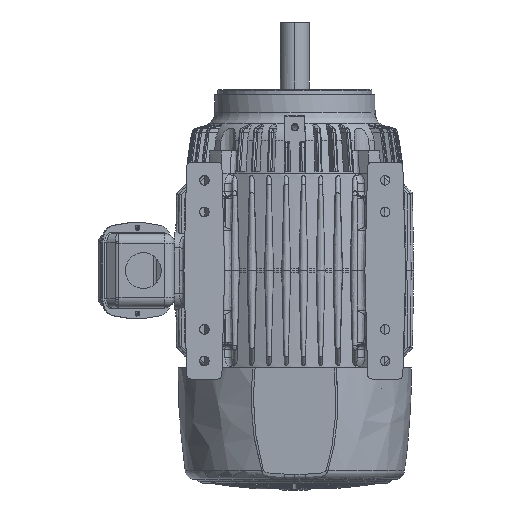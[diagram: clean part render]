
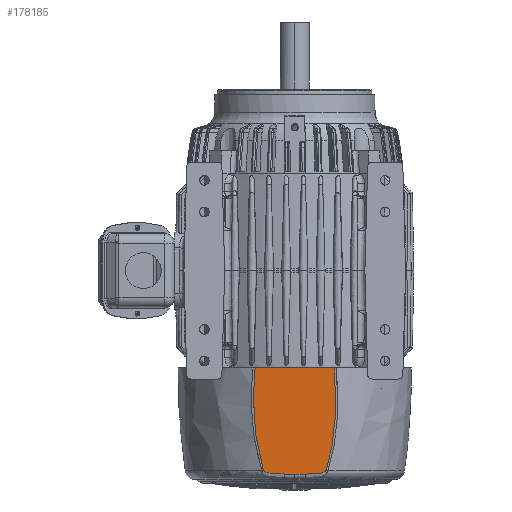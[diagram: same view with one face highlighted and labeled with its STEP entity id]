
A CAD part, front view. The second image highlights one B-rep face of the part: STEP entity #178185.
In plain terms, the highlighted planar face has unit normal (0, -0.999, -0.044).
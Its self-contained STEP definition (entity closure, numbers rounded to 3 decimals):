
#160816=DIRECTION('',(1.,0.,0.));
#160817=VECTOR('',#160816,4.389);
#160818=CARTESIAN_POINT('',(-2.194,-6.06,
0.));
#160819=LINE('',#160818,#160817);
#160824=CARTESIAN_POINT('',(-2.194,-6.06,
0.));
#160875=CARTESIAN_POINT('',(-1.735,-5.813,
-5.651));
#160876=CARTESIAN_POINT('',(-1.832,-5.827,
-5.346));
#160877=CARTESIAN_POINT('',(-1.993,-5.854,
-4.728));
#160878=CARTESIAN_POINT('',(-2.164,-5.897,
-3.741));
#160879=CARTESIAN_POINT('',(-2.256,-5.936,
-2.83));
#160880=CARTESIAN_POINT('',(-2.293,-5.972,
-2.009));
#160881=CARTESIAN_POINT('',(-2.289,-6.005,
-1.271));
#160882=CARTESIAN_POINT('',(-2.255,-6.034,
-0.601));
#160883=CARTESIAN_POINT('',(-2.217,-6.052,
-0.194));
#160884=CARTESIAN_POINT('',(-2.194,-6.06,
0.));
#160886=CARTESIAN_POINT('',(2.194,-6.06,0.));
#160887=CARTESIAN_POINT('',(2.225,-6.049,
-0.261));
#160888=CARTESIAN_POINT('',(2.271,-6.025,
-0.792));
#160889=CARTESIAN_POINT('',(2.298,-5.987,
-1.671));
#160890=CARTESIAN_POINT('',(2.277,-5.953,
-2.46));
#160891=CARTESIAN_POINT('',(2.225,-5.922,
-3.159));
#160892=CARTESIAN_POINT('',(2.152,-5.895,
-3.776));
#160893=CARTESIAN_POINT('',(2.064,-5.871,
-4.322));
#160894=CARTESIAN_POINT('',(1.964,-5.85,
-4.809));
#160895=CARTESIAN_POINT('',(1.856,-5.831,
-5.249));
#160896=CARTESIAN_POINT('',(1.776,-5.819,
-5.521));
#160897=CARTESIAN_POINT('',(1.735,-5.813,
-5.651));
#160899=CARTESIAN_POINT('',(1.735,-5.813,
-5.651));
#160900=CARTESIAN_POINT('',(1.733,-5.813,
-5.658));
#160901=CARTESIAN_POINT('',(1.727,-5.812,
-5.672));
#160902=CARTESIAN_POINT('',(1.713,-5.812,
-5.69));
#160903=CARTESIAN_POINT('',(1.694,-5.811,
-5.708));
#160904=CARTESIAN_POINT('',(1.67,-5.81,
-5.727));
#160905=CARTESIAN_POINT('',(1.639,-5.809,
-5.744));
#160906=CARTESIAN_POINT('',(1.602,-5.808,
-5.762));
#160907=CARTESIAN_POINT('',(1.56,-5.808,
-5.778));
#160908=CARTESIAN_POINT('',(1.511,-5.807,
-5.793));
#160909=CARTESIAN_POINT('',(1.457,-5.806,
-5.807));
#160910=CARTESIAN_POINT('',(1.395,-5.806,
-5.82));
#160911=CARTESIAN_POINT('',(1.325,-5.805,
-5.831));
#160912=CARTESIAN_POINT('',(1.247,-5.805,
-5.841));
#160913=CARTESIAN_POINT('',(1.161,-5.805,
-5.85));
#160914=CARTESIAN_POINT('',(1.068,-5.804,
-5.856));
#160915=CARTESIAN_POINT('',(0.965,-5.804,
-5.861));
#160916=CARTESIAN_POINT('',(0.851,-5.804,
-5.865));
#160917=CARTESIAN_POINT('',(0.726,-5.804,
-5.867));
#160918=CARTESIAN_POINT('',(0.633,-5.804,
-5.867));
#160919=CARTESIAN_POINT('',(0.584,-5.804,
-5.867));
#160921=CARTESIAN_POINT('',(0.584,-5.804,
-5.867));
#160922=CARTESIAN_POINT('',(0.525,-5.804,
-5.867));
#160923=CARTESIAN_POINT('',(0.403,-5.804,
-5.867));
#160924=CARTESIAN_POINT('',(0.212,-5.804,
-5.868));
#160925=CARTESIAN_POINT('',(0.072,-5.804,
-5.868));
#160926=CARTESIAN_POINT('',(0.,-5.804,-5.868));
#160928=CARTESIAN_POINT('',(0.,-5.804,-5.868));
#160929=CARTESIAN_POINT('',(-0.06,-5.804,
-5.868));
#160930=CARTESIAN_POINT('',(-0.184,-5.804,
-5.868));
#160931=CARTESIAN_POINT('',(-0.371,-5.804,
-5.868));
#160932=CARTESIAN_POINT('',(-0.511,-5.804,
-5.867));
#160933=CARTESIAN_POINT('',(-0.584,-5.804,
-5.867));
#160935=CARTESIAN_POINT('',(-0.584,-5.804,
-5.867));
#160936=CARTESIAN_POINT('',(-0.624,-5.804,
-5.867));
#160937=CARTESIAN_POINT('',(-0.7,-5.804,
-5.867));
#160938=CARTESIAN_POINT('',(-0.803,-5.804,
-5.866));
#160939=CARTESIAN_POINT('',(-0.897,-5.804,
-5.863));
#160940=CARTESIAN_POINT('',(-0.984,-5.804,
-5.86));
#160941=CARTESIAN_POINT('',(-1.063,-5.804,
-5.856));
#160942=CARTESIAN_POINT('',(-1.136,-5.805,
-5.851));
#160943=CARTESIAN_POINT('',(-1.203,-5.805,
-5.846));
#160944=CARTESIAN_POINT('',(-1.266,-5.805,
-5.839));
#160945=CARTESIAN_POINT('',(-1.322,-5.805,
-5.831));
#160946=CARTESIAN_POINT('',(-1.373,-5.806,
-5.823));
#160947=CARTESIAN_POINT('',(-1.419,-5.806,
-5.815));
#160948=CARTESIAN_POINT('',(-1.461,-5.807,
-5.806));
#160949=CARTESIAN_POINT('',(-1.498,-5.807,
-5.796));
#160950=CARTESIAN_POINT('',(-1.532,-5.807,
-5.786));
#160951=CARTESIAN_POINT('',(-1.563,-5.808,
-5.777));
#160952=CARTESIAN_POINT('',(-1.589,-5.808,
-5.767));
#160953=CARTESIAN_POINT('',(-1.613,-5.809,
-5.757));
#160954=CARTESIAN_POINT('',(-1.635,-5.809,
-5.746));
#160955=CARTESIAN_POINT('',(-1.656,-5.81,
-5.735));
#160956=CARTESIAN_POINT('',(-1.675,-5.81,
-5.723));
#160957=CARTESIAN_POINT('',(-1.691,-5.811,
-5.711));
#160958=CARTESIAN_POINT('',(-1.703,-5.811,
-5.7));
#160959=CARTESIAN_POINT('',(-1.713,-5.812,
-5.689));
#160960=CARTESIAN_POINT('',(-1.722,-5.812,
-5.679));
#160961=CARTESIAN_POINT('',(-1.729,-5.813,
-5.667));
#160962=CARTESIAN_POINT('',(-1.734,-5.813,
-5.657));
#160963=CARTESIAN_POINT('',(-1.735,-5.813,
-5.651));
#163970=VERTEX_POINT('',#160824);
#163971=VERTEX_POINT('',#160875);
#163973=VERTEX_POINT('',#160935);
#163975=VERTEX_POINT('',#160928);
#163977=VERTEX_POINT('',#160921);
#163979=VERTEX_POINT('',#160899);
#163980=VERTEX_POINT('',#160886);
#178168=CARTESIAN_POINT('',(-5.,-5.754,-7.));
#178169=DIRECTION('',(0.,0.999,0.044));
#178170=DIRECTION('',(0.,-0.044,0.999));
#178171=AXIS2_PLACEMENT_3D('',#178168,#178169,#178170);
#178172=PLANE('',#178171);
#178174=ORIENTED_EDGE('',*,*,#178173,.T.);
#178175=ORIENTED_EDGE('',*,*,#178067,.T.);
#178176=ORIENTED_EDGE('',*,*,#178158,.T.);
#178178=ORIENTED_EDGE('',*,*,#178177,.T.);
#178179=ORIENTED_EDGE('',*,*,#177531,.T.);
#178180=ORIENTED_EDGE('',*,*,#177575,.T.);
#178182=ORIENTED_EDGE('',*,*,#178181,.T.);
#178183=EDGE_LOOP('',(#178174,#178175,#178176,#178178,#178179,#178180,#178182));
#178184=FACE_OUTER_BOUND('',#178183,.F.);
#178185=ADVANCED_FACE('',(#178184),#178172,.F.);
#160885=B_SPLINE_CURVE_WITH_KNOTS('',3,(#160875,#160876,#160877,#160878,#160879,
#160880,#160881,#160882,#160883,#160884),.UNSPECIFIED.,.F.,.F.,(4,1,1,1,1,1,1,
4),(0.,0.143,0.286,0.429,
0.571,0.714,0.857,1.),.UNSPECIFIED.);
#160898=B_SPLINE_CURVE_WITH_KNOTS('',3,(#160886,#160887,#160888,#160889,#160890,
#160891,#160892,#160893,#160894,#160895,#160896,#160897),.UNSPECIFIED.,.F.,.F.,(
4,1,1,1,1,1,1,1,1,4),(0.,0.111,0.222,
0.333,0.444,0.556,0.667,
0.778,0.889,1.),.UNSPECIFIED.);
#160920=B_SPLINE_CURVE_WITH_KNOTS('',3,(#160899,#160900,#160901,#160902,#160903,
#160904,#160905,#160906,#160907,#160908,#160909,#160910,#160911,#160912,#160913,
#160914,#160915,#160916,#160917,#160918,#160919),.UNSPECIFIED.,.F.,.F.,(4,1,1,1,
1,1,1,1,1,1,1,1,1,1,1,1,1,1,4),(0.,0.056,0.111,
0.167,0.222,0.278,0.333,
0.389,0.444,0.5,0.556,0.611,
0.667,0.722,0.778,0.833,
0.889,0.944,1.),.UNSPECIFIED.);
#160927=B_SPLINE_CURVE_WITH_KNOTS('',3,(#160921,#160922,#160923,#160924,#160925,
#160926),.UNSPECIFIED.,.F.,.F.,(4,1,1,4),(0.,0.333,
0.667,1.),.UNSPECIFIED.);
#160934=B_SPLINE_CURVE_WITH_KNOTS('',3,(#160928,#160929,#160930,#160931,#160932,
#160933),.UNSPECIFIED.,.F.,.F.,(4,1,1,4),(0.,0.333,
0.667,1.),.UNSPECIFIED.);
#160964=B_SPLINE_CURVE_WITH_KNOTS('',3,(#160935,#160936,#160937,#160938,#160939,
#160940,#160941,#160942,#160943,#160944,#160945,#160946,#160947,#160948,#160949,
#160950,#160951,#160952,#160953,#160954,#160955,#160956,#160957,#160958,#160959,
#160960,#160961,#160962,#160963),.UNSPECIFIED.,.F.,.F.,(4,1,1,1,1,1,1,1,1,1,1,1,
1,1,1,1,1,1,1,1,1,1,1,1,1,1,4),(0.,0.038,0.077,
0.115,0.154,0.192,0.231,
0.269,0.308,0.346,0.385,
0.423,0.462,0.5,0.538,0.577,
0.615,0.654,0.692,0.731,
0.769,0.808,0.846,0.885,
0.923,0.962,1.),.UNSPECIFIED.);
#177531=EDGE_CURVE('',#163977,#163975,#160927,.T.);
#177575=EDGE_CURVE('',#163975,#163973,#160934,.T.);
#178067=EDGE_CURVE('',#163970,#163980,#160819,.T.);
#178158=EDGE_CURVE('',#163980,#163979,#160898,.T.);
#178173=EDGE_CURVE('',#163971,#163970,#160885,.T.);
#178177=EDGE_CURVE('',#163979,#163977,#160920,.T.);
#178181=EDGE_CURVE('',#163973,#163971,#160964,.T.);
